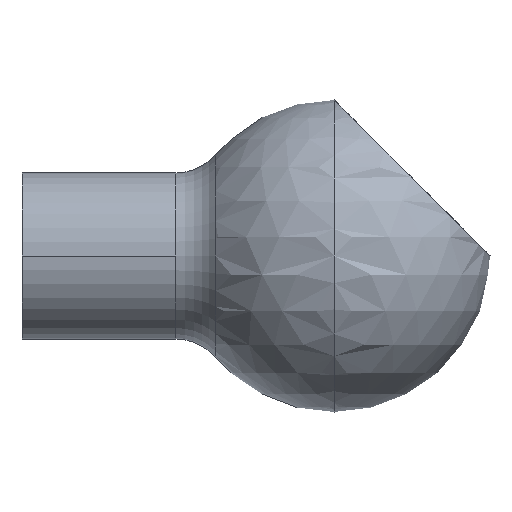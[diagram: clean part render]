
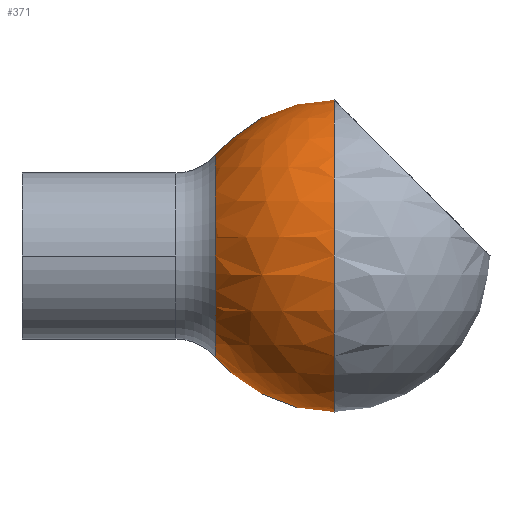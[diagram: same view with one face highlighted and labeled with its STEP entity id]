
A CAD part, left-side view. The second image highlights one B-rep face of the part: STEP entity #371.
In plain terms, the highlighted spherical face has radius 15 mm.
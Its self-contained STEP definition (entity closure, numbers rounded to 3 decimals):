
#155 = EDGE_CURVE( '', #351, #257, #429, .T. );
#161 = EDGE_CURVE( '', #205, #167, #435, .T. );
#165 = VERTEX_POINT( '', #439 );
#167 = VERTEX_POINT( '', #441 );
#183 = EDGE_CURVE( '', #273, #205, #458, .T. );
#197 = EDGE_CURVE( '', #167, #165, #474, .T. );
#205 = VERTEX_POINT( '', #482 );
#221 = VERTEX_POINT( '', #501 );
#247 = VERTEX_POINT( '', #529 );
#257 = VERTEX_POINT( '', #541 );
#273 = VERTEX_POINT( '', #557 );
#351 = VERTEX_POINT( '', #641 );
#371 = ADVANCED_FACE( '', ( #665 ), #666, .T. );
#383 = EDGE_CURVE( '', #221, #351, #679, .T. );
#389 = EDGE_CURVE( '', #165, #247, #686, .T. );
#397 = EDGE_CURVE( '', #247, #221, #696, .T. );
#403 = EDGE_CURVE( '', #257, #273, #703, .T. );
#429 = CIRCLE( '', #722, 15. );
#435 = CIRCLE( '', #730, 9.75 );
#439 = CARTESIAN_POINT( '', ( 9., -18.601, 3.75 ) );
#441 = CARTESIAN_POINT( '', ( 0., -18.601, 9.75 ) );
#458 = CIRCLE( '', #760, 9.75 );
#474 = CIRCLE( '', #796, 9.75 );
#482 = CARTESIAN_POINT( '', ( 0., -18.601, -9.75 ) );
#501 = CARTESIAN_POINT( '', ( 0., -30., 15. ) );
#529 = CARTESIAN_POINT( '', ( 9., -30., 12. ) );
#541 = CARTESIAN_POINT( '', ( 9., -30., -12. ) );
#557 = CARTESIAN_POINT( '', ( 9., -18.601, -3.75 ) );
#641 = CARTESIAN_POINT( '', ( 0., -30., -15. ) );
#665 = FACE_OUTER_BOUND( '', #1046, .T. );
#666 = SPHERICAL_SURFACE( '', #1047, 15. );
#679 = CIRCLE( '', #1065, 15. );
#686 = CIRCLE( '', #1074, 12. );
#696 = CIRCLE( '', #1085, 15. );
#703 = CIRCLE( '', #1094, 12. );
#722 = AXIS2_PLACEMENT_3D( '', #1106, #1107, #1108 );
#730 = AXIS2_PLACEMENT_3D( '', #1112, #1113, #1114 );
#760 = AXIS2_PLACEMENT_3D( '', #1134, #1135, #1136 );
#796 = AXIS2_PLACEMENT_3D( '', #1156, #1157, #1158 );
#1046 = EDGE_LOOP( '', ( #1395, #1396, #1397, #1398, #1399, #1400, #1401, #1402 ) );
#1047 = AXIS2_PLACEMENT_3D( '', #1403, #1404, #1405 );
#1065 = AXIS2_PLACEMENT_3D( '', #1424, #1425, #1426 );
#1074 = AXIS2_PLACEMENT_3D( '', #1439, #1440, #1441 );
#1085 = AXIS2_PLACEMENT_3D( '', #1459, #1460, #1461 );
#1094 = AXIS2_PLACEMENT_3D( '', #1474, #1475, #1476 );
#1106 = CARTESIAN_POINT( '', ( 0., -30., 0. ) );
#1107 = DIRECTION( '', ( 0., -1., 0. ) );
#1108 = DIRECTION( '', ( 0., 0., 1. ) );
#1112 = CARTESIAN_POINT( '', ( 0., -18.601, 0. ) );
#1113 = DIRECTION( '', ( 0., 1., 0. ) );
#1114 = DIRECTION( '', ( 0., 0., 1. ) );
#1134 = CARTESIAN_POINT( '', ( 0., -18.601, 0. ) );
#1135 = DIRECTION( '', ( 0., 1., 0. ) );
#1136 = DIRECTION( '', ( 0., 0., 1. ) );
#1156 = CARTESIAN_POINT( '', ( 0., -18.601, 0. ) );
#1157 = DIRECTION( '', ( 0., 1., 0. ) );
#1158 = DIRECTION( '', ( 0., 0., 1. ) );
#1395 = ORIENTED_EDGE( '', *, *, #383, .F. );
#1396 = ORIENTED_EDGE( '', *, *, #397, .F. );
#1397 = ORIENTED_EDGE( '', *, *, #389, .F. );
#1398 = ORIENTED_EDGE( '', *, *, #197, .F. );
#1399 = ORIENTED_EDGE( '', *, *, #161, .F. );
#1400 = ORIENTED_EDGE( '', *, *, #183, .F. );
#1401 = ORIENTED_EDGE( '', *, *, #403, .F. );
#1402 = ORIENTED_EDGE( '', *, *, #155, .F. );
#1403 = CARTESIAN_POINT( '', ( 0., -30., 0. ) );
#1404 = DIRECTION( '', ( 0., 0., 1. ) );
#1405 = DIRECTION( '', ( 1., 0., 0. ) );
#1424 = CARTESIAN_POINT( '', ( 0., -30., 0. ) );
#1425 = DIRECTION( '', ( 0., -1., 0. ) );
#1426 = DIRECTION( '', ( 0., 0., 1. ) );
#1439 = CARTESIAN_POINT( '', ( 9., -30., 0. ) );
#1440 = DIRECTION( '', ( 1., 0., 0. ) );
#1441 = DIRECTION( '', ( 0., 0., -1. ) );
#1459 = CARTESIAN_POINT( '', ( 0., -30., 0. ) );
#1460 = DIRECTION( '', ( 0., -1., 0. ) );
#1461 = DIRECTION( '', ( 0., 0., 1. ) );
#1474 = CARTESIAN_POINT( '', ( 9., -30., 0. ) );
#1475 = DIRECTION( '', ( 1., 0., 0. ) );
#1476 = DIRECTION( '', ( 0., 0., -1. ) );
